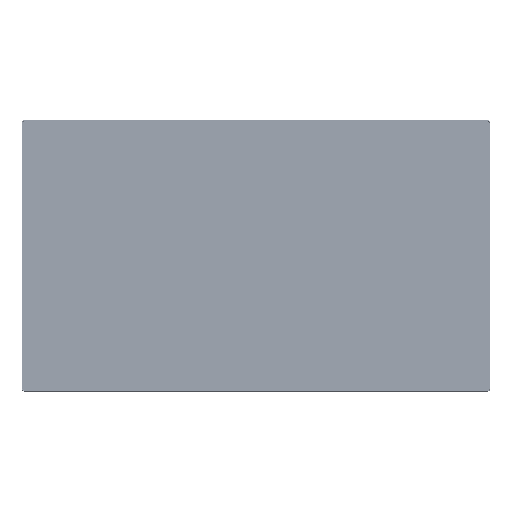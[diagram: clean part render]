
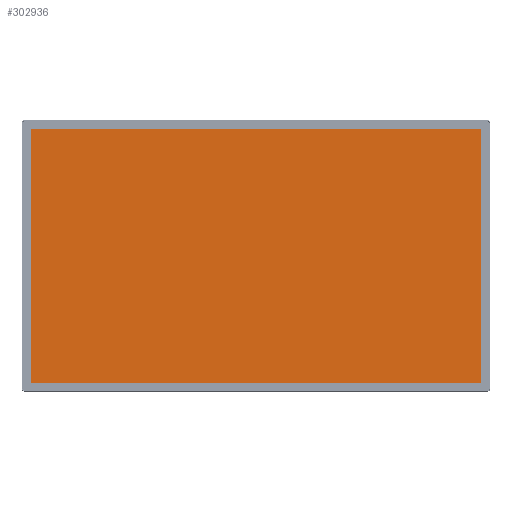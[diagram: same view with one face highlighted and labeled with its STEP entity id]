
A CAD part, top view. The second image highlights one B-rep face of the part: STEP entity #302936.
In plain terms, the highlighted planar face has unit normal (0, 0, 1).
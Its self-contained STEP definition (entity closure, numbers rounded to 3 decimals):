
#10173 = CARTESIAN_POINT ( 'NONE',  ( 0., 0., 2.06 ) ) ;
#21823 = CARTESIAN_POINT ( 'NONE',  ( -548.92, -309.21, 2.06 ) ) ;
#103578 = LINE ( 'NONE', #635861, #545693 ) ;
#110438 = EDGE_CURVE ( 'NONE', #450884, #388539, #910866, .T. ) ;
#116978 = CARTESIAN_POINT ( 'NONE',  ( 548.92, 309.2, 2.06 ) ) ;
#126436 = CARTESIAN_POINT ( 'NONE',  ( -548.92, 309.2, 2.06 ) ) ;
#133969 = VECTOR ( 'NONE', #1088256, 1000. ) ;
#164652 = VECTOR ( 'NONE', #1100273, 1000. ) ;
#185503 = CARTESIAN_POINT ( 'NONE',  ( -548.92, 309.2, 2.06 ) ) ;
#213910 = ORIENTED_EDGE ( 'NONE', *, *, #227190, .F. ) ;
#227190 = EDGE_CURVE ( 'NONE', #673040, #822319, #103578, .T. ) ;
#302936 = ADVANCED_FACE ( 'NONE', ( #353779 ), #794601, .T. ) ;
#310221 = CARTESIAN_POINT ( 'NONE',  ( -548.92, -309.21, 2.06 ) ) ;
#337751 = CARTESIAN_POINT ( 'NONE',  ( 548.92, 309.2, 2.06 ) ) ;
#353779 = FACE_OUTER_BOUND ( 'NONE', #395984, .T. ) ;
#381893 = DIRECTION ( 'NONE',  ( 0., 0., 1. ) ) ;
#388539 = VERTEX_POINT ( 'NONE', #116978 ) ;
#395984 = EDGE_LOOP ( 'NONE', ( #977203, #604649, #213910, #712897 ) ) ;
#450884 = VERTEX_POINT ( 'NONE', #185503 ) ;
#526914 = AXIS2_PLACEMENT_3D ( 'NONE', #10173, #381893, #811508 ) ;
#545693 = VECTOR ( 'NONE', #796488, 1000. ) ;
#604649 = ORIENTED_EDGE ( 'NONE', *, *, #677490, .F. ) ;
#635861 = CARTESIAN_POINT ( 'NONE',  ( 548.92, -309.21, 2.06 ) ) ;
#673040 = VERTEX_POINT ( 'NONE', #1068547 ) ;
#677490 = EDGE_CURVE ( 'NONE', #822319, #450884, #922916, .T. ) ;
#712897 = ORIENTED_EDGE ( 'NONE', *, *, #745472, .F. ) ;
#745472 = EDGE_CURVE ( 'NONE', #388539, #673040, #795471, .T. ) ;
#794601 = PLANE ( 'NONE',  #526914 ) ;
#795471 = LINE ( 'NONE', #337751, #893723 ) ;
#796488 = DIRECTION ( 'NONE',  ( -1., 0., 0. ) ) ;
#811508 = DIRECTION ( 'NONE',  ( 1., 0., 0. ) ) ;
#822319 = VERTEX_POINT ( 'NONE', #21823 ) ;
#893723 = VECTOR ( 'NONE', #1041856, 1000. ) ;
#910866 = LINE ( 'NONE', #126436, #133969 ) ;
#922916 = LINE ( 'NONE', #310221, #164652 ) ;
#977203 = ORIENTED_EDGE ( 'NONE', *, *, #110438, .F. ) ;
#1041856 = DIRECTION ( 'NONE',  ( 0., -1., 0. ) ) ;
#1068547 = CARTESIAN_POINT ( 'NONE',  ( 548.92, -309.21, 2.06 ) ) ;
#1088256 = DIRECTION ( 'NONE',  ( 1., 0., 0. ) ) ;
#1100273 = DIRECTION ( 'NONE',  ( 0., 1., 0. ) ) ;
